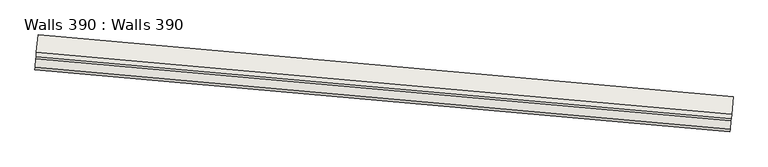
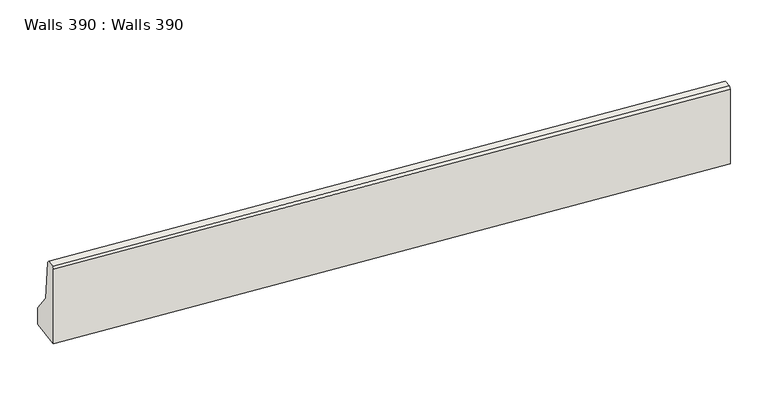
"""IFC4 building model written with IfcOpenShell, lengths in millimetres: wall geometry, Walls 390 : Walls 390."""

from ifc_helpers import new_model, si_unit, frame, origin, place, context, project, spatial, polyline, outline, extrude, source, transform, mapped, element, save


def walls_390_walls_390_03cd756f(model_context):
    return source(origin(), model_context, "Body", "SweptSolid", [
        extrude(outline(polyline([(638180.0, 400.0), (638430.0, 200.0), (638935.0, 150.0), (638960.0, 125.0), (638960.0, 25.0), (638935.0, 0.0), (637960.0, 0.0), (637960.0, 400.0), (638180.0, 400.0)])), frame((-594984.7245593, -426074.0440375, 0.0), z_axis=(-0.9960550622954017, 0.08873732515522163, 0.0), x_axis=(0.0, 0.0, 1.0)), (0.0, 0.0, 1.0), 8000.0000001),
    ])


if __name__ == "__main__":
    model = new_model("IFC4")
    model_context = context("Model", 3, world=origin())
    ifc_project = project(units=[si_unit("LENGTHUNIT", "METRE", prefix="MILLI")], contexts=[model_context])
    site = spatial("IfcSite", under=ifc_project)
    building = spatial("IfcBuilding", under=site)
    placement = place(None, origin())
    walls_390_walls_390_shape = walls_390_walls_390_03cd756f(model_context)
    element("IfcWall", 1, ObjectType="Walls 390 : Walls 390", at=placement, inside=building, context=model_context, shape_type="MappedRepresentation", body=[
        mapped(walls_390_walls_390_shape, transform((0.0, 0.0, 0.0), x_axis=(1.0, 0.0, 0.0), y_axis=(0.0, 1.0, 0.0), z_axis=(0.0, 0.0, 1.0))),
    ])
    save(model, "model.ifc")
